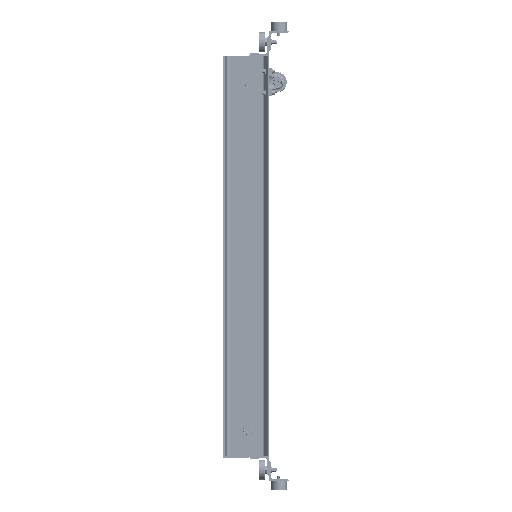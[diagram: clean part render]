
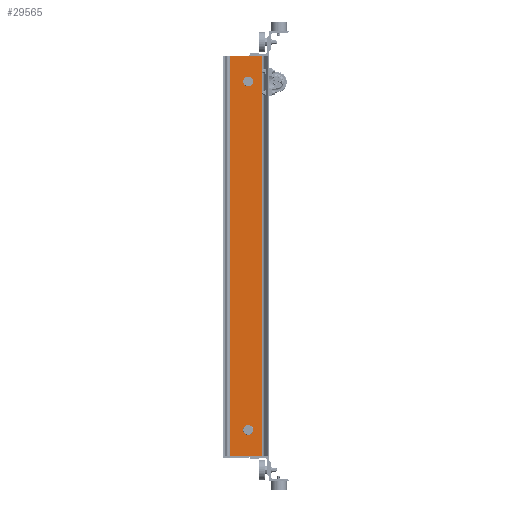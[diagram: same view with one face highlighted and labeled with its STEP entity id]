
A CAD part, left-side view. The second image highlights one B-rep face of the part: STEP entity #29565.
In plain terms, the highlighted planar face has unit normal (-1, 0, 0) as drawn and (1, 0, 0) by its records, which use the part's own axes.
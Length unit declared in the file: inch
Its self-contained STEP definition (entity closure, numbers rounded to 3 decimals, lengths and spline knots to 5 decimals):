
#2142 = LINE ( 'NONE', #68862, #37779 ) ;
#4362 = CIRCLE ( 'NONE', #67140, 0.789 ) ;
#6226 = EDGE_CURVE ( 'NONE', #127108, #209861, #187806, .T. ) ;
#17177 = EDGE_CURVE ( 'NONE', #100658, #33116, #18366, .T. ) ;
#17624 = ORIENTED_EDGE ( 'NONE', *, *, #179966, .F. ) ;
#18366 = LINE ( 'NONE', #68615, #77117 ) ;
#23598 = AXIS2_PLACEMENT_3D ( 'NONE', #213966, #78500, #30346 ) ;
#29565 = ADVANCED_FACE ( 'NONE', ( #187138, #104158, #204589 ), #79684, .T. ) ;
#30346 = DIRECTION ( 'NONE',  ( 0., 1., 0. ) ) ;
#33116 = VERTEX_POINT ( 'NONE', #75922 ) ;
#33496 = AXIS2_PLACEMENT_3D ( 'NONE', #197632, #62155, #123743 ) ;
#35092 = ORIENTED_EDGE ( 'NONE', *, *, #6226, .T. ) ;
#37779 = VECTOR ( 'NONE', #116997, 39.37008 ) ;
#38923 = DIRECTION ( 'NONE',  ( 0., 1., 0. ) ) ;
#42035 = VECTOR ( 'NONE', #169768, 39.37008 ) ;
#45557 = CARTESIAN_POINT ( 'NONE',  ( 0.353, 6.85768, -35. ) ) ;
#51065 = CARTESIAN_POINT ( 'NONE',  ( 0.353, 6.85768, 35. ) ) ;
#52977 = DIRECTION ( 'NONE',  ( 0., 1., 0. ) ) ;
#53320 = DIRECTION ( 'NONE',  ( 0., -1., 0. ) ) ;
#54034 = DIRECTION ( 'NONE',  ( -1., 0., 0. ) ) ;
#56382 = DIRECTION ( 'NONE',  ( -1., 0., 0. ) ) ;
#62155 = DIRECTION ( 'NONE',  ( 1., 0., 0. ) ) ;
#67140 = AXIS2_PLACEMENT_3D ( 'NONE', #185383, #56382, #38923 ) ;
#68615 = CARTESIAN_POINT ( 'NONE',  ( 0.353, 6.85768, 35. ) ) ;
#68862 = CARTESIAN_POINT ( 'NONE',  ( 0.353, 6.85768, 35. ) ) ;
#69205 = ORIENTED_EDGE ( 'NONE', *, *, #79786, .T. ) ;
#75188 = EDGE_CURVE ( 'NONE', #33116, #115232, #118432, .T. ) ;
#75922 = CARTESIAN_POINT ( 'NONE',  ( 0.353, 1.14232, 35. ) ) ;
#77117 = VECTOR ( 'NONE', #53320, 39.37008 ) ;
#78500 = DIRECTION ( 'NONE',  ( -1., 0., 0. ) ) ;
#79684 = PLANE ( 'NONE',  #33496 ) ;
#79786 = EDGE_CURVE ( 'NONE', #151302, #107098, #195883, .T. ) ;
#83609 = ORIENTED_EDGE ( 'NONE', *, *, #152067, .T. ) ;
#86172 = EDGE_LOOP ( 'NONE', ( #17624, #89691, #104029, #208702 ) ) ;
#89128 = EDGE_LOOP ( 'NONE', ( #83609, #69205 ) ) ;
#89691 = ORIENTED_EDGE ( 'NONE', *, *, #198843, .F. ) ;
#93614 = AXIS2_PLACEMENT_3D ( 'NONE', #119644, #54034, #52977 ) ;
#96720 = VECTOR ( 'NONE', #159230, 39.37008 ) ;
#100658 = VERTEX_POINT ( 'NONE', #51065 ) ;
#100816 = CARTESIAN_POINT ( 'NONE',  ( 0.353, 3.622, -29.811 ) ) ;
#104029 = ORIENTED_EDGE ( 'NONE', *, *, #17177, .T. ) ;
#104158 = FACE_OUTER_BOUND ( 'NONE', #86172, .T. ) ;
#107098 = VERTEX_POINT ( 'NONE', #206850 ) ;
#109010 = LINE ( 'NONE', #45557, #96720 ) ;
#111574 = DIRECTION ( 'NONE',  ( -1., 0., 0. ) ) ;
#115232 = VERTEX_POINT ( 'NONE', #159430 ) ;
#116997 = DIRECTION ( 'NONE',  ( 0., 0., -1. ) ) ;
#117694 = CARTESIAN_POINT ( 'NONE',  ( 0.353, 3.622, -31.389 ) ) ;
#118432 = LINE ( 'NONE', #186140, #42035 ) ;
#119644 = CARTESIAN_POINT ( 'NONE',  ( 0.353, 3.622, -30.6 ) ) ;
#121985 = CARTESIAN_POINT ( 'NONE',  ( 0.353, 6.85768, -35. ) ) ;
#123743 = DIRECTION ( 'NONE',  ( 0., 1., 0. ) ) ;
#127108 = VERTEX_POINT ( 'NONE', #100816 ) ;
#129596 = AXIS2_PLACEMENT_3D ( 'NONE', #177164, #111574, #194586 ) ;
#140578 = CARTESIAN_POINT ( 'NONE',  ( 0.353, 3.622, 29.711 ) ) ;
#144248 = EDGE_CURVE ( 'NONE', #209861, #127108, #4362, .T. ) ;
#151302 = VERTEX_POINT ( 'NONE', #140578 ) ;
#152067 = EDGE_CURVE ( 'NONE', #107098, #151302, #212044, .T. ) ;
#159230 = DIRECTION ( 'NONE',  ( 0., -1., 0. ) ) ;
#159430 = CARTESIAN_POINT ( 'NONE',  ( 0.353, 1.14232, -35. ) ) ;
#161445 = VERTEX_POINT ( 'NONE', #121985 ) ;
#169768 = DIRECTION ( 'NONE',  ( 0., 0., -1. ) ) ;
#177164 = CARTESIAN_POINT ( 'NONE',  ( 0.353, 3.622, 30.5 ) ) ;
#179452 = ORIENTED_EDGE ( 'NONE', *, *, #144248, .T. ) ;
#179966 = EDGE_CURVE ( 'NONE', #161445, #115232, #109010, .T. ) ;
#185383 = CARTESIAN_POINT ( 'NONE',  ( 0.353, 3.622, -30.6 ) ) ;
#186140 = CARTESIAN_POINT ( 'NONE',  ( 0.353, 1.14232, 35. ) ) ;
#186410 = EDGE_LOOP ( 'NONE', ( #35092, #179452 ) ) ;
#187138 = FACE_BOUND ( 'NONE', #89128, .T. ) ;
#187806 = CIRCLE ( 'NONE', #93614, 0.789 ) ;
#194586 = DIRECTION ( 'NONE',  ( 0., 1., 0. ) ) ;
#195883 = CIRCLE ( 'NONE', #129596, 0.789 ) ;
#197632 = CARTESIAN_POINT ( 'NONE',  ( 0.353, 6.85768, 35. ) ) ;
#198843 = EDGE_CURVE ( 'NONE', #100658, #161445, #2142, .T. ) ;
#204589 = FACE_BOUND ( 'NONE', #186410, .T. ) ;
#206850 = CARTESIAN_POINT ( 'NONE',  ( 0.353, 3.622, 31.289 ) ) ;
#208702 = ORIENTED_EDGE ( 'NONE', *, *, #75188, .T. ) ;
#209861 = VERTEX_POINT ( 'NONE', #117694 ) ;
#212044 = CIRCLE ( 'NONE', #23598, 0.789 ) ;
#213966 = CARTESIAN_POINT ( 'NONE',  ( 0.353, 3.622, 30.5 ) ) ;
